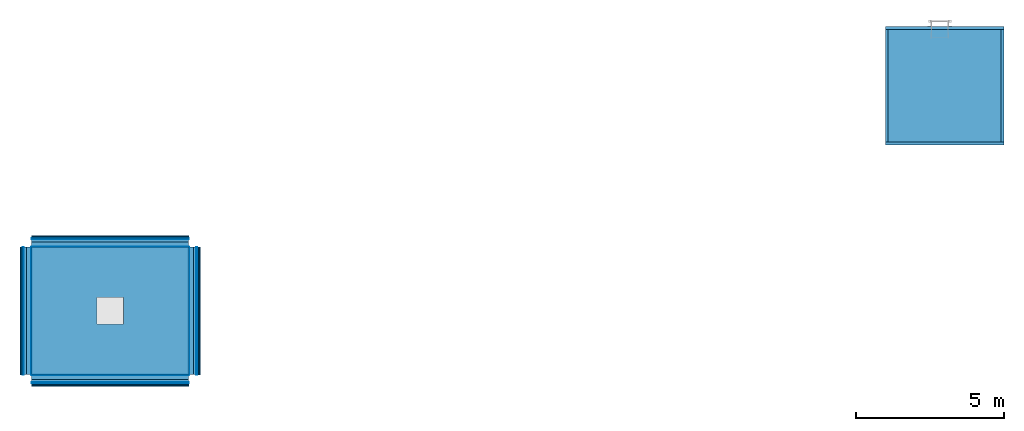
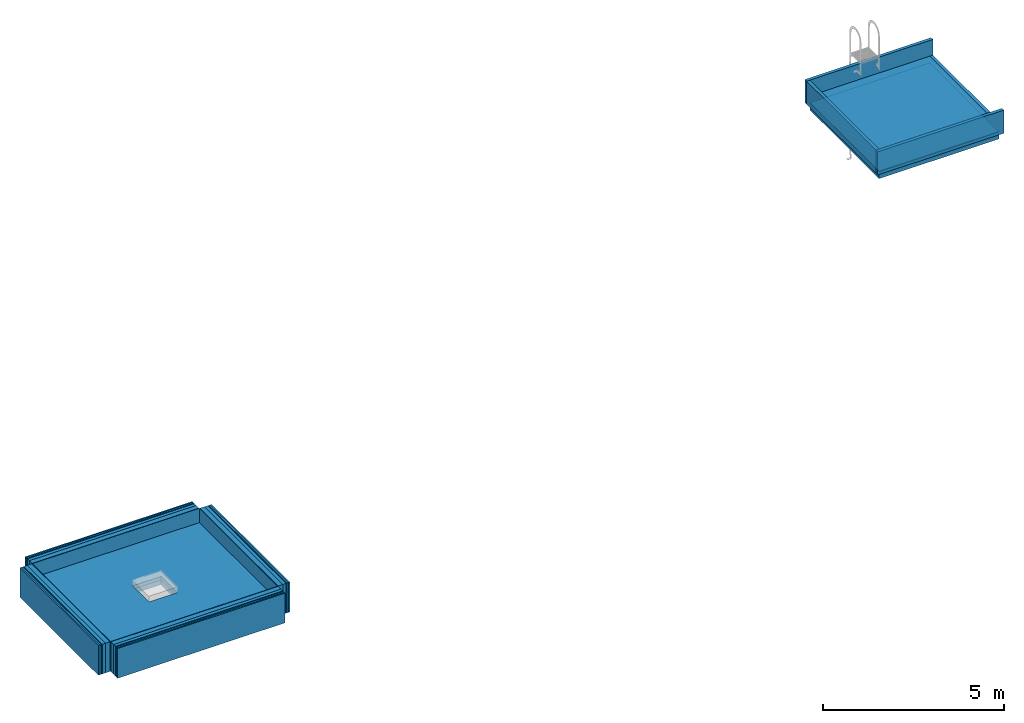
# One storey, part 1 of 3: 34 building element parts, 4 walls, 1 opening, 6 elements without a shape of their own.
"""IFC2X3 building model written with IfcOpenShell, lengths in millimetres."""

from ifc_helpers import new_model, entity, si_unit, converted_unit, derived_unit, money_unit, direction, frame, origin_with_axes, place, context, subcontext, project, spatial, polyline, outline, extrude, material, layer, layer_set, layer_usage, type_object, element, aggregate, save


model = new_model("IFC2X3")

# Units and contexts
model_context = context("Model", 3, precision=0.01, world=origin_with_axes(), true_north=direction((0.0, 1.0)))
body_context = subcontext(model_context, "Body", "Model", "MODEL_VIEW")
ifc_project = project(units=[si_unit("LENGTHUNIT", "METRE", prefix="MILLI"), si_unit("AREAUNIT", "SQUARE_METRE"), si_unit("VOLUMEUNIT", "CUBIC_METRE"), converted_unit("PLANEANGLEUNIT", "DEGREE", entity("IfcPlaneAngleMeasure", 0.0174532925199), si_unit("PLANEANGLEUNIT", "RADIAN"), dimensions=[0, 0, 0, 0, 0, 0, 0]), si_unit("SOLIDANGLEUNIT", "STERADIAN"), money_unit("EUR"), converted_unit("TIMEUNIT", "Year", entity("IfcTimeMeasure", 31556926.0), si_unit("TIMEUNIT", "SECOND"), dimensions=[0, 0, 1, 0, 0, 0, 0]), si_unit("MASSUNIT", "GRAM", prefix="KILO"), si_unit("THERMODYNAMICTEMPERATUREUNIT", "DEGREE_CELSIUS"), si_unit("LUMINOUSINTENSITYUNIT", "LUMEN"), si_unit("ENERGYUNIT", "JOULE", prefix="MEGA"), derived_unit("THERMALCONDUCTANCEUNIT", [(si_unit("POWERUNIT", "WATT"), 1), (si_unit("LENGTHUNIT", "METRE"), -1), (si_unit("THERMODYNAMICTEMPERATUREUNIT", "KELVIN"), -1)]), derived_unit("SPECIFICHEATCAPACITYUNIT", [(si_unit("ENERGYUNIT", "JOULE"), 1), (si_unit("MASSUNIT", "GRAM", prefix="KILO"), -1), (si_unit("THERMODYNAMICTEMPERATUREUNIT", "KELVIN"), -1)]), derived_unit("MASSDENSITYUNIT", [(si_unit("MASSUNIT", "GRAM", prefix="KILO"), 1), (si_unit("VOLUMEUNIT", "CUBIC_METRE"), -1)])], contexts=[model_context])

# Site, building, storey
site_placement = place(None, origin_with_axes())
site = spatial("IfcSite", under=ifc_project, at=site_placement, Name="Politse- ja Piirivalveameti ning Päästeameti ühishoone", CompositionType="ELEMENT")
building_placement = place(site_placement, origin_with_axes())
building = spatial("IfcBuilding", under=site, at=building_placement, Name="Politse- ja Piirivalveameti ning Päästeameti ühishoone", CompositionType="ELEMENT")
storey_placement = place(building_placement, frame((0.0, 0.0, 10600.0), z_axis=(0.0, 0.0, 1.0), x_axis=(1.0, 0.0, 0.0)))
storey = spatial("IfcBuildingStorey", under=building, at=storey_placement, Name="Korrus +9.900", CompositionType="ELEMENT", Elevation=10600.0)

# Walls
ifc_material_1 = material(Name="KON-04_Betoon - Konstuktsioon")
ifc_layer = layer(ifc_material_1, 100.0, ventilated="UNKNOWN")
ifc_layer_set = layer_set([ifc_layer], Name="VS-08_välissein parapett")
ifc_layer_usage_1 = layer_usage(ifc_layer_set, "AXIS2", "NEGATIVE", 100.0)
wall_type_1 = type_object("IfcWallType", Name="VS-08_välissein parapett 100", PredefinedType="NOTDEFINED")
wall_1_placement = place(storey_placement, frame((14990.5476386, 7960.01986111, 620.0), z_axis=(0.0, 0.0, 1.0), x_axis=(0.0, 1.0, 0.0)))
element("IfcWallStandardCase", 1, at=wall_1_placement, inside=storey, type_object=wall_type_1, material=ifc_layer_usage_1, Name="VS-08", context=body_context, shape_type="SweptSolid", body=[
    extrude(outline(polyline([(0.0, 0.0), (3820.0, 0.0), (3820.0, 100.0), (0.0, 100.0), (0.0, 0.0)])), origin_with_axes(), (0.0, 0.0, 1.0), 779.517951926),
])
ifc_layer_usage_2 = layer_usage(ifc_layer_set, "AXIS2", "POSITIVE", -100.0)
wall_2_placement = place(storey_placement, frame((14890.5476386, 7960.01986111, 620.0), z_axis=(0.0, 0.0, 1.0), x_axis=(1.0, 0.0, 0.0)))
element("IfcWallStandardCase", 2, at=wall_2_placement, inside=storey, type_object=wall_type_1, material=ifc_layer_usage_2, Name="VS-08", context=body_context, shape_type="SweptSolid", body=[
    extrude(outline(polyline([(0.0, -100.0), (4019.54047256, -100.0), (4019.54047256, 0.0), (0.0, 0.0), (0.0, -100.0)])), origin_with_axes(), (0.0, 0.0, 1.0), 779.517951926),
])
ifc_layer_usage_3 = layer_usage(ifc_layer_set, "AXIS2", "NEGATIVE", 100.0)
wall_3_placement = place(storey_placement, frame((14890.5476386, 11780.0198611, 620.0), z_axis=(0.0, 0.0, 1.0), x_axis=(1.0, 0.0, 0.0)))
element("IfcWallStandardCase", 3, at=wall_3_placement, inside=storey, type_object=wall_type_1, material=ifc_layer_usage_3, Name="VS-08", context=body_context, shape_type="SweptSolid", body=[
    extrude(outline(polyline([(0.0, 0.0), (4019.54047256, 0.0), (4019.54047256, 100.0), (0.0, 100.0), (0.0, 0.0)])), origin_with_axes(), (0.0, 0.0, 1.0), 779.517951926),
])
ifc_layer_usage_4 = layer_usage(ifc_layer_set, "AXIS2", "POSITIVE", -100.0)
wall_4_placement = place(storey_placement, frame((18810.0881112, 7960.01986111, 620.0), z_axis=(0.0, 0.0, 1.0), x_axis=(0.0, 1.0, 0.0)))
element("IfcWallStandardCase", 4, at=wall_4_placement, inside=storey, type_object=wall_type_1, material=ifc_layer_usage_4, Name="VS-08", context=body_context, shape_type="SweptSolid", body=[
    extrude(outline(polyline([(0.0, -100.0), (3820.0, -100.0), (3820.0, 0.0), (0.0, 0.0), (0.0, -100.0)])), origin_with_axes(), (0.0, 0.0, 1.0), 250.0),
])

# Slab, building element parts
slab_type_1 = type_object("IfcSlabType", Name="KL-06_Katuslagi vooliku torn 470", PredefinedType="ROOF")
slab_1_placement = place(storey_placement, frame((14990.5476386, 11780.0198611, 870.0), z_axis=(0.0, 0.0, 1.0), x_axis=(1.0, 0.0, 0.0)))
slab_1 = element("IfcSlab", 5, at=slab_1_placement, inside=storey, type_object=slab_type_1, Name="KL-06", PredefinedType="ROOF")
building_element_part_1_placement = place(slab_1_placement, origin_with_axes())
building_element_part_1 = element("IfcBuildingElementPart", 6, at=building_element_part_1_placement, material=ifc_material_1, Name="KON-04_Betoon - Konstuktsioon", context=body_context, shape_type="SweptSolid", body=[
    extrude(outline(polyline([(0.0, 0.0), (0.0, -3820.0), (3819.54047256, -3820.0), (3819.54047256, 0.0), (0.0, 0.0)])), frame((0.0, 0.0, -470.0), z_axis=(0.0, 0.0, 1.0), x_axis=(1.0, 0.0, 0.0)), (0.0, 0.0, 1.0), 220.0),
])
ifc_material_2 = material(Name="Betoon")
building_element_part_2_placement = place(slab_1_placement, origin_with_axes())
building_element_part_2 = element("IfcBuildingElementPart", 7, at=building_element_part_2_placement, material=ifc_material_2, Name="Betoon", context=body_context, shape_type="SweptSolid", body=[
    extrude(outline(polyline([(0.0, 0.0), (0.0, -3820.0), (3819.54047256, -3820.0), (3819.54047256, 0.0), (0.0, 0.0)])), frame((0.0, 0.0, -250.0), z_axis=(0.0, 0.0, 1.0), x_axis=(1.0, 0.0, 0.0)), (0.0, 0.0, 1.0), 30.0),
])
ifc_material_3 = material(Name="SOJ-02_Soojustus - Fiiber Kõva")
building_element_part_3_placement = place(slab_1_placement, origin_with_axes())
building_element_part_3 = element("IfcBuildingElementPart", 8, at=building_element_part_3_placement, material=ifc_material_3, Name="SOJ-02_Soojustus - Fiiber Kõva", context=body_context, shape_type="SweptSolid", body=[
    extrude(outline(polyline([(0.0, 0.0), (0.0, -3820.0), (3819.54047256, -3820.0), (3819.54047256, 0.0), (0.0, 0.0)])), frame((0.0, 0.0, -220.0), z_axis=(0.0, 0.0, 1.0), x_axis=(1.0, 0.0, 0.0)), (0.0, 0.0, 1.0), 220.0),
])
aggregate(slab_1, [building_element_part_1, building_element_part_2, building_element_part_3])

# Slab, opening, building element parts
slab_type_2 = type_object("IfcSlabType", Name="KL-20_Katuslagi harjutustorn 275", PredefinedType="ROOF")
slab_2_placement = place(storey_placement, frame((-14254.0, 4575.4616888, -1003.0), z_axis=(0.0, 0.0, 1.0), x_axis=(1.0, 2.13140717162e-09, 0.0)))
slab_2 = element("IfcSlab", 9, at=slab_2_placement, inside=storey, type_object=slab_type_2, Name="KL-20", PredefinedType="ROOF")
opening_placement = place(slab_2_placement, origin_with_axes())
element("IfcOpeningElement", 10, at=opening_placement, cuts=slab_2, Name="Slab Opening", context=body_context, shape_type="SweptSolid", body=[
    extrude(outline(polyline([(3347.15060921, -2775.34677211), (3347.15061112, -1875.34677211), (2447.15061112, -1875.34677019), (2447.15060921, -2775.34677019), (3347.15060921, -2775.34677211)])), origin_with_axes(), (0.0, 0.0, 1.0), 275.0),
])
ifc_material_4 = material(Name="SKR-01_Õhkvahe - Raam")
building_element_part_4_placement = place(slab_2_placement, origin_with_axes())
building_element_part_4 = element("IfcBuildingElementPart", 11, at=building_element_part_4_placement, material=ifc_material_4, Name="SKR-01_Õhkvahe - Raam", context=body_context, shape_type="SweptSolid", body=[
    extrude(outline(polyline([(236.99999044, -4485.46168931), (5571.99999044, -4485.46170068), (5571.99999965, -165.000011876), (236.999999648, -165.000000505), (236.99999044, -4485.46168931)])), origin_with_axes(), (0.0, 0.0, 1.0), 160.0),
])
building_element_part_5_placement = place(slab_2_placement, origin_with_axes())
building_element_part_5 = element("IfcBuildingElementPart", 12, at=building_element_part_5_placement, material=ifc_material_4, Name="SKR-01_Õhkvahe - Raam", context=body_context, shape_type="SweptSolid", body=[
    extrude(outline(polyline([(236.99999044, -4485.46168931), (5571.99999044, -4485.46170068), (5571.99999965, -165.000011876), (236.999999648, -165.000000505), (236.99999044, -4485.46168931)])), frame((0.0, 0.0, 160.0), z_axis=(0.0, 0.0, 1.0), x_axis=(1.0, 0.0, 0.0)), (0.0, 0.0, 1.0), 100.0),
])
ifc_material_5 = material(Name="SKR-05_Vineer")
building_element_part_6_placement = place(slab_2_placement, origin_with_axes())
building_element_part_6 = element("IfcBuildingElementPart", 13, at=building_element_part_6_placement, material=ifc_material_5, Name="SKR-05_Vineer", context=body_context, shape_type="SweptSolid", body=[
    extrude(outline(polyline([(236.99999044, -4485.46168931), (5571.99999044, -4485.46170068), (5571.99999965, -165.000011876), (236.999999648, -165.000000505), (236.99999044, -4485.46168931)])), frame((0.0, 0.0, 260.0), z_axis=(0.0, 0.0, 1.0), x_axis=(1.0, 0.0, 0.0)), (0.0, 0.0, 1.0), 15.0),
])
aggregate(slab_2, [building_element_part_4, building_element_part_5, building_element_part_6])

# Wall, building element parts
wall_type_2 = type_object("IfcWallType", Name="VS-25_Välissein jarjutustorn parapett 390", PredefinedType="NOTDEFINED")
wall_5_placement = place(storey_placement, frame((-8697.0, 4410.4616888, -1250.0), z_axis=(0.0, 0.0, 1.0), x_axis=(-1.0, 0.0, 0.0)))
wall_5 = element("IfcWall", 14, at=wall_5_placement, inside=storey, type_object=wall_type_2, Name="VS-20")
ifc_material_6 = material(Name="SKR-04_Puitplaat")
building_element_part_7_placement = place(wall_5_placement, origin_with_axes())
building_element_part_7 = element("IfcBuildingElementPart", 15, at=building_element_part_7_placement, material=ifc_material_6, Name="SKR-04_Puitplaat", context=body_context, shape_type="SweptSolid", body=[
    extrude(outline(polyline([(0.0, -15.0), (5320.0, -15.0), (5320.0, 0.0), (0.0, 0.0), (0.0, -15.0)])), origin_with_axes(), (0.0, 0.0, 1.0), 1000.0),
])
ifc_material_7 = material(Name="Õhkvahe - Raam")
building_element_part_8_placement = place(wall_5_placement, origin_with_axes())
building_element_part_8 = element("IfcBuildingElementPart", 16, at=building_element_part_8_placement, material=ifc_material_7, Name="Õhkvahe - Raam", context=body_context, shape_type="SweptSolid", body=[
    extrude(outline(polyline([(0.0, -165.0), (5320.0, -165.0), (5320.0, -15.0), (0.0, -15.0), (0.0, -165.0)])), origin_with_axes(), (0.0, 0.0, 1.0), 1000.0),
])
building_element_part_9_placement = place(wall_5_placement, origin_with_axes())
building_element_part_9 = element("IfcBuildingElementPart", 17, at=building_element_part_9_placement, material=ifc_material_7, Name="Õhkvahe - Raam", context=body_context, shape_type="SweptSolid", body=[
    extrude(outline(polyline([(0.0, -265.0), (5320.0, -265.0), (5320.0, -165.0), (0.0, -165.0), (0.0, -265.0)])), origin_with_axes(), (0.0, 0.0, 1.0), 1000.0),
])
building_element_part_10_placement = place(wall_5_placement, origin_with_axes())
building_element_part_10 = element("IfcBuildingElementPart", 18, at=building_element_part_10_placement, material=ifc_material_5, Name="SKR-05_Vineer", context=body_context, shape_type="SweptSolid", body=[
    extrude(outline(polyline([(0.0, -280.0), (5320.0, -280.0), (5320.0, -265.0), (0.0, -265.0), (0.0, -280.0)])), origin_with_axes(), (0.0, 0.0, 1.0), 1000.0),
])
building_element_part_11_placement = place(wall_5_placement, origin_with_axes())
building_element_part_11 = element("IfcBuildingElementPart", 19, at=building_element_part_11_placement, material=ifc_material_4, Name="SKR-01_Õhkvahe - Raam", context=body_context, shape_type="SweptSolid", body=[
    extrude(outline(polyline([(0.0, -295.0), (5320.0, -295.0), (5320.0, -280.0), (0.0, -280.0), (0.0, -295.0)])), origin_with_axes(), (0.0, 0.0, 1.0), 1000.0),
])
building_element_part_12_placement = place(wall_5_placement, origin_with_axes())
building_element_part_12 = element("IfcBuildingElementPart", 20, at=building_element_part_12_placement, material=ifc_material_4, Name="SKR-01_Õhkvahe - Raam", context=body_context, shape_type="SweptSolid", body=[
    extrude(outline(polyline([(0.0, -345.0), (5320.0, -345.0), (5320.0, -295.0), (0.0, -295.0), (0.0, -345.0)])), origin_with_axes(), (0.0, 0.0, 1.0), 1000.0),
])
building_element_part_13_placement = place(wall_5_placement, origin_with_axes())
building_element_part_13 = element("IfcBuildingElementPart", 21, at=building_element_part_13_placement, material=ifc_material_6, Name="SKR-04_Puitplaat", context=body_context, shape_type="SweptSolid", body=[
    extrude(outline(polyline([(0.0, -390.0), (5320.0, -390.0), (5320.0, -345.0), (0.0, -345.0), (0.0, -390.0)])), origin_with_axes(), (0.0, 0.0, 1.0), 1000.0),
])
aggregate(wall_5, [building_element_part_7, building_element_part_8, building_element_part_9, building_element_part_10, building_element_part_11, building_element_part_12, building_element_part_13])

wall_6_placement = place(storey_placement, frame((-8697.0, 90.0, -1250.0), z_axis=(0.0, 0.0, 1.0), x_axis=(-1.0, 0.0, 0.0)))
wall_6 = element("IfcWall", 22, at=wall_6_placement, inside=storey, type_object=wall_type_2, Name="VS-20")
building_element_part_14_placement = place(wall_6_placement, origin_with_axes())
building_element_part_14 = element("IfcBuildingElementPart", 23, at=building_element_part_14_placement, material=ifc_material_6, Name="SKR-04_Puitplaat", context=body_context, shape_type="SweptSolid", body=[
    extrude(outline(polyline([(0.0, 0.0), (5320.0, 0.0), (5320.0, 15.0), (0.0, 15.0), (0.0, 0.0)])), origin_with_axes(), (0.0, 0.0, 1.0), 1000.0),
])
building_element_part_15_placement = place(wall_6_placement, origin_with_axes())
building_element_part_15 = element("IfcBuildingElementPart", 24, at=building_element_part_15_placement, material=ifc_material_7, Name="Õhkvahe - Raam", context=body_context, shape_type="SweptSolid", body=[
    extrude(outline(polyline([(0.0, 15.0), (5320.0, 15.0), (5320.0, 165.0), (0.0, 165.0), (0.0, 15.0)])), origin_with_axes(), (0.0, 0.0, 1.0), 1000.0),
])
building_element_part_16_placement = place(wall_6_placement, origin_with_axes())
building_element_part_16 = element("IfcBuildingElementPart", 25, at=building_element_part_16_placement, material=ifc_material_7, Name="Õhkvahe - Raam", context=body_context, shape_type="SweptSolid", body=[
    extrude(outline(polyline([(0.0, 165.0), (5320.0, 165.0), (5320.0, 265.0), (0.0, 265.0), (0.0, 165.0)])), origin_with_axes(), (0.0, 0.0, 1.0), 1000.0),
])
building_element_part_17_placement = place(wall_6_placement, origin_with_axes())
building_element_part_17 = element("IfcBuildingElementPart", 26, at=building_element_part_17_placement, material=ifc_material_5, Name="SKR-05_Vineer", context=body_context, shape_type="SweptSolid", body=[
    extrude(outline(polyline([(0.0, 265.0), (5320.0, 265.0), (5320.0, 280.0), (0.0, 280.0), (0.0, 265.0)])), origin_with_axes(), (0.0, 0.0, 1.0), 1000.0),
])
building_element_part_18_placement = place(wall_6_placement, origin_with_axes())
building_element_part_18 = element("IfcBuildingElementPart", 27, at=building_element_part_18_placement, material=ifc_material_4, Name="SKR-01_Õhkvahe - Raam", context=body_context, shape_type="SweptSolid", body=[
    extrude(outline(polyline([(0.0, 280.0), (5320.0, 280.0), (5320.0, 295.0), (0.0, 295.0), (0.0, 280.0)])), origin_with_axes(), (0.0, 0.0, 1.0), 1000.0),
])
building_element_part_19_placement = place(wall_6_placement, origin_with_axes())
building_element_part_19 = element("IfcBuildingElementPart", 28, at=building_element_part_19_placement, material=ifc_material_4, Name="SKR-01_Õhkvahe - Raam", context=body_context, shape_type="SweptSolid", body=[
    extrude(outline(polyline([(0.0, 295.0), (5320.0, 295.0), (5320.0, 345.0), (0.0, 345.0), (0.0, 295.0)])), origin_with_axes(), (0.0, 0.0, 1.0), 1000.0),
])
building_element_part_20_placement = place(wall_6_placement, origin_with_axes())
building_element_part_20 = element("IfcBuildingElementPart", 29, at=building_element_part_20_placement, material=ifc_material_6, Name="SKR-04_Puitplaat", context=body_context, shape_type="SweptSolid", body=[
    extrude(outline(polyline([(0.0, 345.0), (5320.0, 345.0), (5320.0, 390.0), (0.0, 390.0), (0.0, 345.0)])), origin_with_axes(), (0.0, 0.0, 1.0), 1000.0),
])
aggregate(wall_6, [building_element_part_14, building_element_part_15, building_element_part_16, building_element_part_17, building_element_part_18, building_element_part_19, building_element_part_20])

wall_7_placement = place(storey_placement, frame((-14017.0, 90.0, -1250.0), z_axis=(0.0, 0.0, 1.0), x_axis=(0.0, 1.0, 0.0)))
wall_7 = element("IfcWall", 30, at=wall_7_placement, inside=storey, type_object=wall_type_2, Name="VS-20")
building_element_part_21_placement = place(wall_7_placement, origin_with_axes())
building_element_part_21 = element("IfcBuildingElementPart", 31, at=building_element_part_21_placement, material=ifc_material_6, Name="SKR-04_Puitplaat", context=body_context, shape_type="SweptSolid", body=[
    extrude(outline(polyline([(0.0, 0.0), (4320.4616888, 0.0), (4320.4616888, 15.0), (0.0, 15.0), (0.0, 0.0)])), origin_with_axes(), (0.0, 0.0, 1.0), 1000.0),
])
building_element_part_22_placement = place(wall_7_placement, origin_with_axes())
building_element_part_22 = element("IfcBuildingElementPart", 32, at=building_element_part_22_placement, material=ifc_material_7, Name="Õhkvahe - Raam", context=body_context, shape_type="SweptSolid", body=[
    extrude(outline(polyline([(0.0, 15.0), (4320.4616888, 15.0), (4320.4616888, 165.0), (0.0, 165.0), (0.0, 15.0)])), origin_with_axes(), (0.0, 0.0, 1.0), 1000.0),
])
building_element_part_23_placement = place(wall_7_placement, origin_with_axes())
building_element_part_23 = element("IfcBuildingElementPart", 33, at=building_element_part_23_placement, material=ifc_material_7, Name="Õhkvahe - Raam", context=body_context, shape_type="SweptSolid", body=[
    extrude(outline(polyline([(0.0, 165.0), (4320.4616888, 165.0), (4320.4616888, 265.0), (0.0, 265.0), (0.0, 165.0)])), origin_with_axes(), (0.0, 0.0, 1.0), 1000.0),
])
building_element_part_24_placement = place(wall_7_placement, origin_with_axes())
building_element_part_24 = element("IfcBuildingElementPart", 34, at=building_element_part_24_placement, material=ifc_material_5, Name="SKR-05_Vineer", context=body_context, shape_type="SweptSolid", body=[
    extrude(outline(polyline([(0.0, 265.0), (4320.4616888, 265.0), (4320.4616888, 280.0), (0.0, 280.0), (0.0, 265.0)])), origin_with_axes(), (0.0, 0.0, 1.0), 1000.0),
])
building_element_part_25_placement = place(wall_7_placement, origin_with_axes())
building_element_part_25 = element("IfcBuildingElementPart", 35, at=building_element_part_25_placement, material=ifc_material_4, Name="SKR-01_Õhkvahe - Raam", context=body_context, shape_type="SweptSolid", body=[
    extrude(outline(polyline([(0.0, 280.0), (4320.4616888, 280.0), (4320.4616888, 295.0), (0.0, 295.0), (0.0, 280.0)])), origin_with_axes(), (0.0, 0.0, 1.0), 1000.0),
])
building_element_part_26_placement = place(wall_7_placement, origin_with_axes())
building_element_part_26 = element("IfcBuildingElementPart", 36, at=building_element_part_26_placement, material=ifc_material_4, Name="SKR-01_Õhkvahe - Raam", context=body_context, shape_type="SweptSolid", body=[
    extrude(outline(polyline([(0.0, 295.0), (4320.4616888, 295.0), (4320.4616888, 345.0), (0.0, 345.0), (0.0, 295.0)])), origin_with_axes(), (0.0, 0.0, 1.0), 1000.0),
])
building_element_part_27_placement = place(wall_7_placement, origin_with_axes())
building_element_part_27 = element("IfcBuildingElementPart", 37, at=building_element_part_27_placement, material=ifc_material_6, Name="SKR-04_Puitplaat", context=body_context, shape_type="SweptSolid", body=[
    extrude(outline(polyline([(0.0, 345.0), (4320.4616888, 345.0), (4320.4616888, 390.0), (0.0, 390.0), (0.0, 345.0)])), origin_with_axes(), (0.0, 0.0, 1.0), 1000.0),
])
aggregate(wall_7, [building_element_part_21, building_element_part_22, building_element_part_23, building_element_part_24, building_element_part_25, building_element_part_26, building_element_part_27])

wall_8_placement = place(storey_placement, frame((-8697.0, 90.0, -1250.0), z_axis=(0.0, 0.0, 1.0), x_axis=(0.0, 1.0, 0.0)))
wall_8 = element("IfcWall", 38, at=wall_8_placement, inside=storey, type_object=wall_type_2, Name="VS-20")
building_element_part_28_placement = place(wall_8_placement, origin_with_axes())
building_element_part_28 = element("IfcBuildingElementPart", 39, at=building_element_part_28_placement, material=ifc_material_6, Name="SKR-04_Puitplaat", context=body_context, shape_type="SweptSolid", body=[
    extrude(outline(polyline([(0.0, -15.0), (4320.4616888, -15.0), (4320.4616888, 0.0), (0.0, 0.0), (0.0, -15.0)])), origin_with_axes(), (0.0, 0.0, 1.0), 1000.0),
])
building_element_part_29_placement = place(wall_8_placement, origin_with_axes())
building_element_part_29 = element("IfcBuildingElementPart", 40, at=building_element_part_29_placement, material=ifc_material_7, Name="Õhkvahe - Raam", context=body_context, shape_type="SweptSolid", body=[
    extrude(outline(polyline([(0.0, -165.0), (4320.4616888, -165.0), (4320.4616888, -15.0), (0.0, -15.0), (0.0, -165.0)])), origin_with_axes(), (0.0, 0.0, 1.0), 1000.0),
])
building_element_part_30_placement = place(wall_8_placement, origin_with_axes())
building_element_part_30 = element("IfcBuildingElementPart", 41, at=building_element_part_30_placement, material=ifc_material_7, Name="Õhkvahe - Raam", context=body_context, shape_type="SweptSolid", body=[
    extrude(outline(polyline([(0.0, -265.0), (4320.4616888, -265.0), (4320.4616888, -165.0), (0.0, -165.0), (0.0, -265.0)])), origin_with_axes(), (0.0, 0.0, 1.0), 1000.0),
])
building_element_part_31_placement = place(wall_8_placement, origin_with_axes())
building_element_part_31 = element("IfcBuildingElementPart", 42, at=building_element_part_31_placement, material=ifc_material_5, Name="SKR-05_Vineer", context=body_context, shape_type="SweptSolid", body=[
    extrude(outline(polyline([(0.0, -280.0), (4320.4616888, -280.0), (4320.4616888, -265.0), (0.0, -265.0), (0.0, -280.0)])), origin_with_axes(), (0.0, 0.0, 1.0), 1000.0),
])
building_element_part_32_placement = place(wall_8_placement, origin_with_axes())
building_element_part_32 = element("IfcBuildingElementPart", 43, at=building_element_part_32_placement, material=ifc_material_4, Name="SKR-01_Õhkvahe - Raam", context=body_context, shape_type="SweptSolid", body=[
    extrude(outline(polyline([(0.0, -295.0), (4320.4616888, -295.0), (4320.4616888, -280.0), (0.0, -280.0), (0.0, -295.0)])), origin_with_axes(), (0.0, 0.0, 1.0), 1000.0),
])
building_element_part_33_placement = place(wall_8_placement, origin_with_axes())
building_element_part_33 = element("IfcBuildingElementPart", 44, at=building_element_part_33_placement, material=ifc_material_4, Name="SKR-01_Õhkvahe - Raam", context=body_context, shape_type="SweptSolid", body=[
    extrude(outline(polyline([(0.0, -345.0), (4320.4616888, -345.0), (4320.4616888, -295.0), (0.0, -295.0), (0.0, -345.0)])), origin_with_axes(), (0.0, 0.0, 1.0), 1000.0),
])
building_element_part_34_placement = place(wall_8_placement, origin_with_axes())
building_element_part_34 = element("IfcBuildingElementPart", 45, at=building_element_part_34_placement, material=ifc_material_6, Name="SKR-04_Puitplaat", context=body_context, shape_type="SweptSolid", body=[
    extrude(outline(polyline([(0.0, -390.0), (4320.4616888, -390.0), (4320.4616888, -345.0), (0.0, -345.0), (0.0, -390.0)])), origin_with_axes(), (0.0, 0.0, 1.0), 1000.0),
])
aggregate(wall_8, [building_element_part_28, building_element_part_29, building_element_part_30, building_element_part_31, building_element_part_32, building_element_part_33, building_element_part_34])

save(model, "model.ifc")
